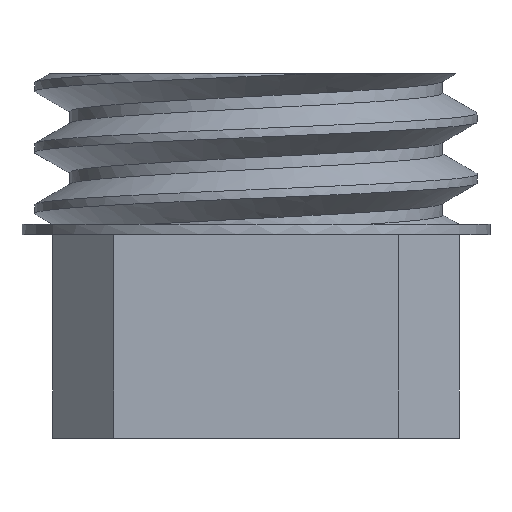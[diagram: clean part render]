
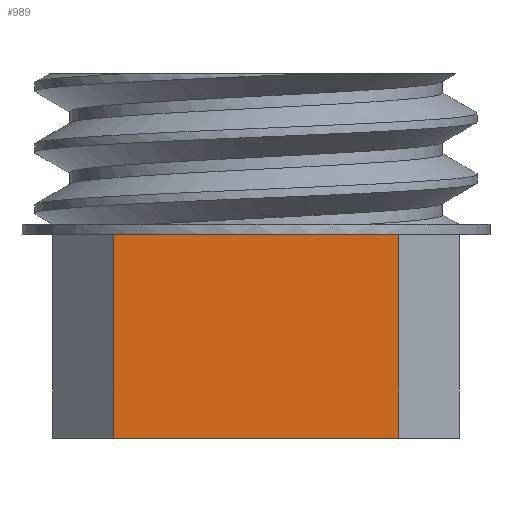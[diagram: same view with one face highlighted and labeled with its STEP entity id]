
A CAD part, left-side view. The second image highlights one B-rep face of the part: STEP entity #989.
In plain terms, the highlighted planar face has unit normal (-1, 0, 0).
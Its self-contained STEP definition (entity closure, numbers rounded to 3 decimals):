
#486 = EDGE_CURVE('',#487,#489,#491,.T.);
#487 = VERTEX_POINT('',#488);
#488 = CARTESIAN_POINT('',(-22.,7.,-9.9));
#489 = VERTEX_POINT('',#490);
#490 = CARTESIAN_POINT('',(-22.,-7.,-9.9));
#491 = LINE('',#492,#493);
#492 = CARTESIAN_POINT('',(-22.,10.,-9.9));
#493 = VECTOR('',#494,1.);
#494 = DIRECTION('',(0.,-1.,0.));
#572 = VERTEX_POINT('',#573);
#573 = CARTESIAN_POINT('',(-22.,-7.,-19.9));
#579 = EDGE_CURVE('',#489,#572,#580,.T.);
#580 = LINE('',#581,#582);
#581 = CARTESIAN_POINT('',(-22.,-7.,-9.9));
#582 = VECTOR('',#583,1.);
#583 = DIRECTION('',(0.,0.,-1.));
#609 = VERTEX_POINT('',#610);
#610 = CARTESIAN_POINT('',(-22.,7.,-19.9));
#616 = EDGE_CURVE('',#609,#572,#617,.T.);
#617 = LINE('',#618,#619);
#618 = CARTESIAN_POINT('',(-22.,10.,-19.9));
#619 = VECTOR('',#620,1.);
#620 = DIRECTION('',(0.,-1.,0.));
#954 = EDGE_CURVE('',#487,#609,#955,.T.);
#955 = LINE('',#956,#957);
#956 = CARTESIAN_POINT('',(-22.,7.,-9.9));
#957 = VECTOR('',#958,1.);
#958 = DIRECTION('',(0.,0.,-1.));
#989 = ADVANCED_FACE('',(#990),#996,.T.);
#990 = FACE_BOUND('',#991,.T.);
#991 = EDGE_LOOP('',(#992,#993,#994,#995));
#992 = ORIENTED_EDGE('',*,*,#486,.F.);
#993 = ORIENTED_EDGE('',*,*,#954,.T.);
#994 = ORIENTED_EDGE('',*,*,#616,.T.);
#995 = ORIENTED_EDGE('',*,*,#579,.F.);
#996 = PLANE('',#997);
#997 = AXIS2_PLACEMENT_3D('',#998,#999,#1000);
#998 = CARTESIAN_POINT('',(-22.,10.,-9.9));
#999 = DIRECTION('',(-1.,0.,0.));
#1000 = DIRECTION('',(0.,-1.,0.));
